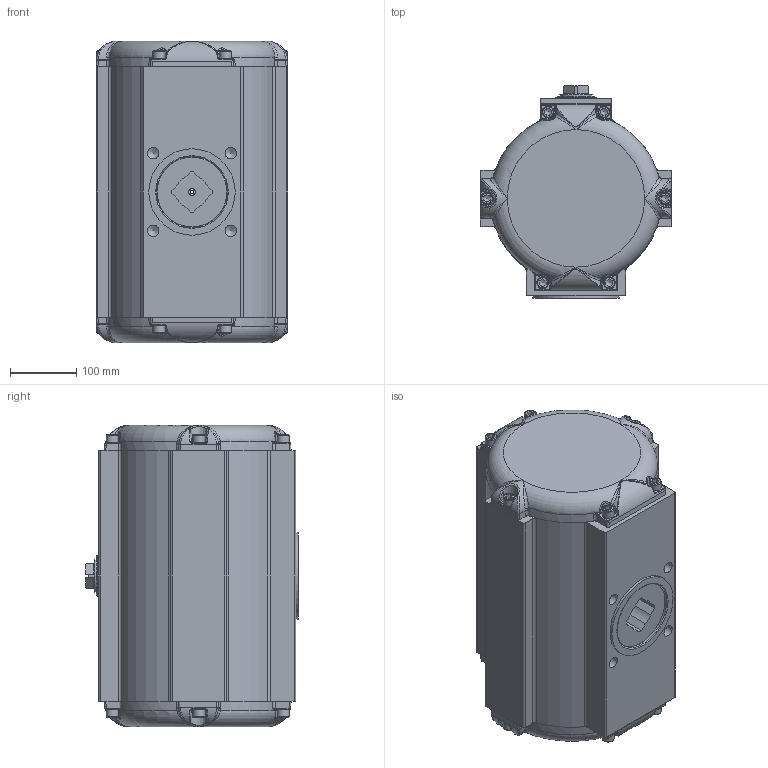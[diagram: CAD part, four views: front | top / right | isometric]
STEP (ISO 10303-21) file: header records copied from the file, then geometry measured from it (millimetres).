
FILE_DESCRIPTION(/* description */ (''),/* implementation_level */ '2;1');
FILE_NAME(/* name */ 'C:\Users\war\Desktop\BR03C_SAD_43.stp',/* time_stamp */ '2021-05-05T10:25:05+02:00',/* author */ ('war'),/* organization */ (''),/* preprocessor_version */ 'ST-DEVELOPER v18.1',/* originating_system */ 'Autodesk Inventor 2021',/* authorisation */ '');
FILE_SCHEMA (('AUTOMOTIVE_DESIGN { 1 0 10303 214 3 1 1 }'));
Products named in the file (1): ENG-074553_Shrinkwrap_1
Bounding box: 288 x 320 x 453 mm (x, y, z)
Volume: 10650333.3 mm3; surface area: 1185184.7 mm2
Topology: 1 solids, 1 shells, 1510 faces, 4142 edges, 2632 vertices
Faces by surface type: bspline 514, cylinder 441, plane 391, torus 87, cone 77
Full cylindrical faces by diameter (mm): 2.5 x2, 4.134 x4, 4.917 x5, 6 x2, 8 x1, 8.376 x2, 10 x2, 10.106 x1, 12 x2, 17.294 x4, 18 x12, 18.631 x2, 37 x1, 40 x4, 45 x2, 46 x1, 46.1 x1, 49.6 x3, 50 x3, 50.1 x1, 61 x1, 63 x1, 75 x1, 80 x1, 99.1 x2, 101 x1, 105.8 x3, 106 x2, 130 x1, 236 x1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
Entity records: 67604 total; most frequent: CARTESIAN_POINT 31138, ORIENTED_EDGE 8120, DIRECTION 6298, EDGE_CURVE 4060, VERTEX_POINT 2632, AXIS2_PLACEMENT_3D 2537, EDGE_LOOP 1608, STYLED_ITEM 1511
